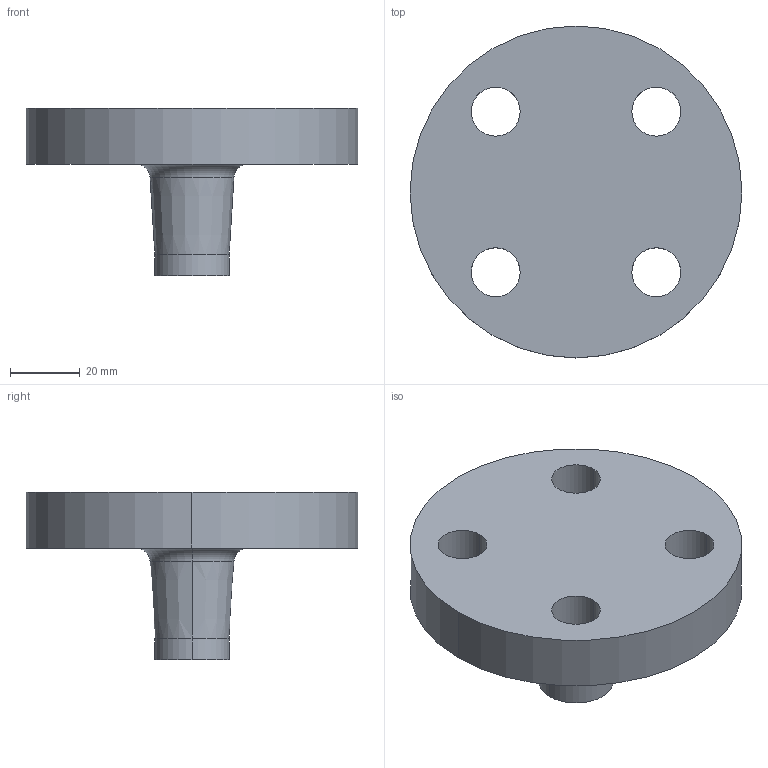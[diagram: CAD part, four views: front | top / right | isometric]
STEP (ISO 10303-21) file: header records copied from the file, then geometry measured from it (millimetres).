
FILE_DESCRIPTION (( 'STEP AP214' ), '1' );
FILE_NAME ('PN40 DN15 Type 21(ii) - Type A Face.STEP', '2018-12-29T14:27:17', ( '' ), ( '' ), 'SwSTEP 2.0', 'SolidWorks 2019', '' );
FILE_SCHEMA (( 'AUTOMOTIVE_DESIGN' ));
Length unit declared in the file: millimetre
Products named in the file (1): PN40 DN15 Type 21(ii) - Type A Face
Bounding box: 95 x 95 x 48 mm (x, y, z)
Volume: 116648.3 mm3; surface area: 22587.1 mm2
Topology: 1 solids, 1 shells, 21 faces, 48 edges, 30 vertices
Faces by surface type: cylinder 12, torus 4, plane 3, cone 2
Entity records: 658 total; most frequent: DIRECTION 126, CARTESIAN_POINT 100, ORIENTED_EDGE 96, AXIS2_PLACEMENT_3D 56, EDGE_CURVE 48, CIRCLE 34, VERTEX_POINT 30, EDGE_LOOP 30
